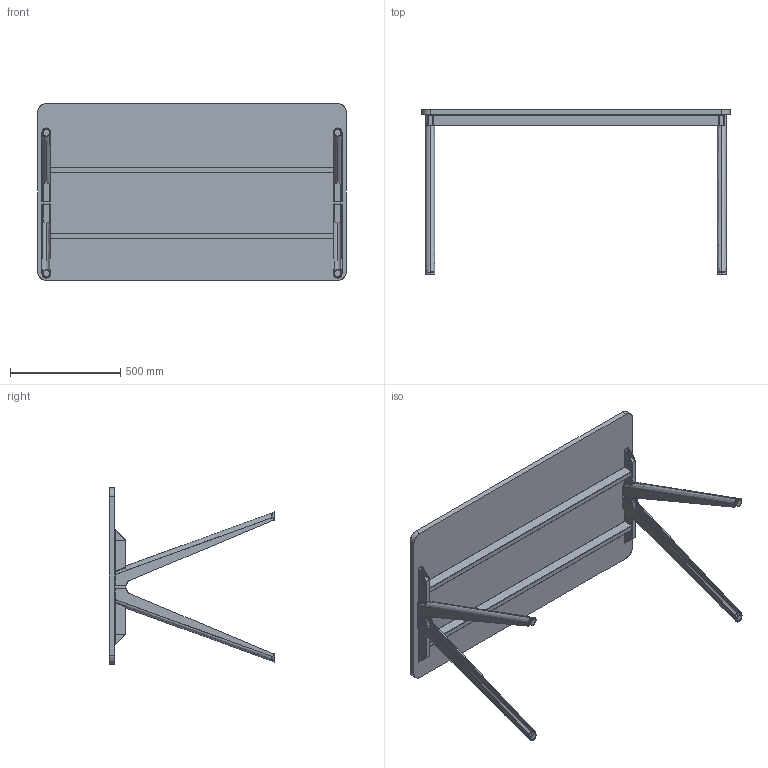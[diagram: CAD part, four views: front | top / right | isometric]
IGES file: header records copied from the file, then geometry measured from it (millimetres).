
Start section: SolidWorks IGES file using analytic representation for surfaces
Global section: file name: C:\Users\simone.cerana\OneDrive - Gruppo Tecno\Desktop\CHINA\DISEGNI DI SERIE\ASSIEMI LISTINO\HORIZON LISTINO\HO1408ST.IGS; native system: SolidWorks 2024; preprocessor: SolidWorks 2024; author: simone.cerana; date: 260508.124158; units: millimetre
Bounding box: 1400 x 749.83 x 800 mm (x, y, z)
Surface area: 3501173.6 mm2 (no closed solid volume)
Topology: 0 solids, 0 shells, 252 faces, 3496 edges, 3496 vertices
Faces by surface type: bspline 166, revolution 86
